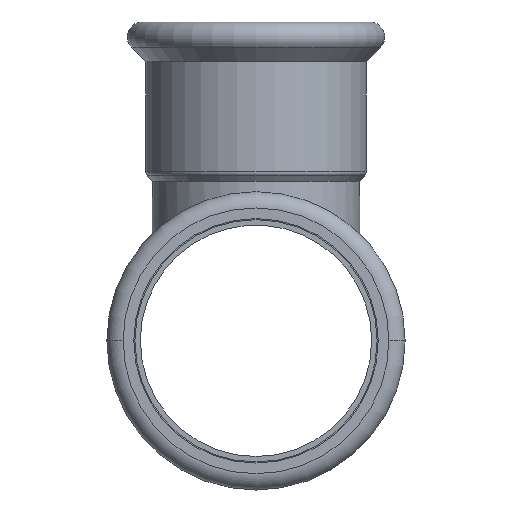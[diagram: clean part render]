
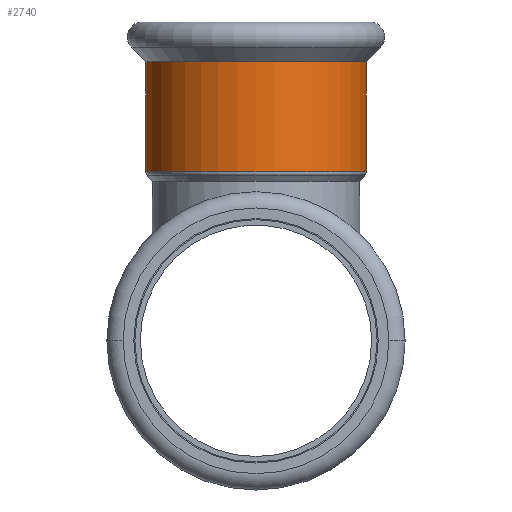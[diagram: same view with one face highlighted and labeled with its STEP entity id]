
A CAD part, left-side view. The second image highlights one B-rep face of the part: STEP entity #2740.
In plain terms, the highlighted cylindrical face has radius 40.45 mm (diameter 80.9 mm), a partial arc.
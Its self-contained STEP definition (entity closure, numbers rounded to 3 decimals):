
#2330=CARTESIAN_POINT('',(36.969,0.,0.));
#2340=DIRECTION('',(-1.,0.,0.));
#2350=DIRECTION('',(0.,1.,0.));
#2360=AXIS2_PLACEMENT_3D('',#2330,#2340,#2350);
#2370=CYLINDRICAL_SURFACE('',#2360,40.45);
#2380=CARTESIAN_POINT('',(36.969,40.45,0.));
#2390=DIRECTION('',(-1.,0.,0.));
#2400=VECTOR('',#2390,1.);
#2410=LINE('',#2380,#2400);
#2420=CARTESIAN_POINT('',(48.422,40.45,0.));
#2430=VERTEX_POINT('',#2420);
#2440=CARTESIAN_POINT('',(8.088,40.45,0.));
#2450=VERTEX_POINT('',#2440);
#2460=EDGE_CURVE('',#2430,#2450,#2410,.T.);
#2470=ORIENTED_EDGE('',*,*,#2460,.T.);
#2480=CARTESIAN_POINT('',(48.422,0.,0.));
#2490=DIRECTION('',(1.,0.,0.));
#2500=DIRECTION('',(0.,1.,0.));
#2510=AXIS2_PLACEMENT_3D('',#2480,#2490,#2500);
#2520=CIRCLE('',#2510,40.45);
#2530=CARTESIAN_POINT('',(48.422,-40.45,0.))
;
#2540=VERTEX_POINT('',#2530);
#2550=EDGE_CURVE('',#2430,#2540,#2520,.T.);
#2560=ORIENTED_EDGE('',*,*,#2550,.F.);
#2570=CARTESIAN_POINT('',(36.969,-40.45,0.))
;
#2580=DIRECTION('',(-1.,0.,0.));
#2590=VECTOR('',#2580,1.);
#2600=LINE('',#2570,#2590);
#2610=CARTESIAN_POINT('',(8.088,-40.45,0.));
#2620=VERTEX_POINT('',#2610);
#2630=EDGE_CURVE('',#2540,#2620,#2600,.T.);
#2640=ORIENTED_EDGE('',*,*,#2630,.F.);
#2650=CARTESIAN_POINT('',(8.088,0.,0.));
#2660=DIRECTION('',(-1.,0.,0.));
#2670=DIRECTION('',(0.,1.,0.));
#2680=AXIS2_PLACEMENT_3D('',#2650,#2660,#2670);
#2690=CIRCLE('',#2680,40.45);
#2700=EDGE_CURVE('',#2620,#2450,#2690,.T.);
#2710=ORIENTED_EDGE('',*,*,#2700,.F.);
#2720=EDGE_LOOP('',(#2710,#2640,#2560,#2470));
#2730=FACE_OUTER_BOUND('',#2720,.T.);
#2740=ADVANCED_FACE('',(#2730),#2370,.T.);
